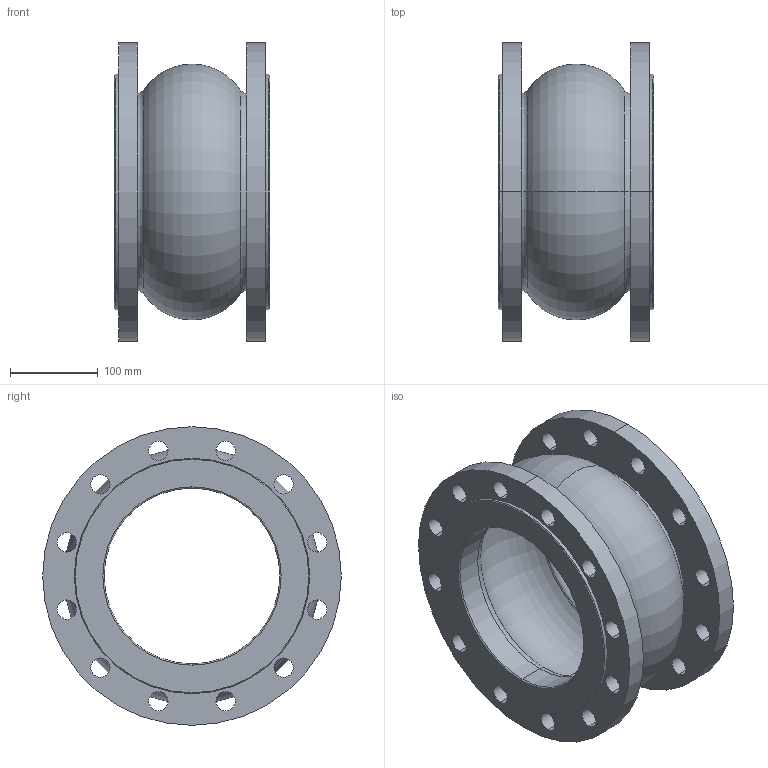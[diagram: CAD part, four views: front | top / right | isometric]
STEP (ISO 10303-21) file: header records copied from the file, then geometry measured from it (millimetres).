
FILE_DESCRIPTION (( 'STEP AP203' ), '1' );
FILE_NAME ('F8_PN16_DN200.STEP', '2012-10-31T08:45:15', ( 'luca.saino' ), ( 'Hewlett-Packard Company' ), 'SwSTEP 2.0', 'SolidWorks 2012', '' );
FILE_SCHEMA (( 'CONFIG_CONTROL_DESIGN' ));
Length unit declared in the file: millimetre
Products named in the file (1): F8_PN16_DN200
Bounding box: 177 x 340 x 340 mm (x, y, z)
Volume: 3970834 mm3; surface area: 560764 mm2
Topology: 1 solids, 1 shells, 90 faces, 228 edges, 144 vertices
Faces by surface type: cylinder 60, torus 16, cone 8, plane 6
Entity records: 2957 total; most frequent: DIRECTION 570, CARTESIAN_POINT 463, ORIENTED_EDGE 456, AXIS2_PLACEMENT_3D 251, EDGE_CURVE 228, CIRCLE 160, EDGE_LOOP 144, VERTEX_POINT 144
